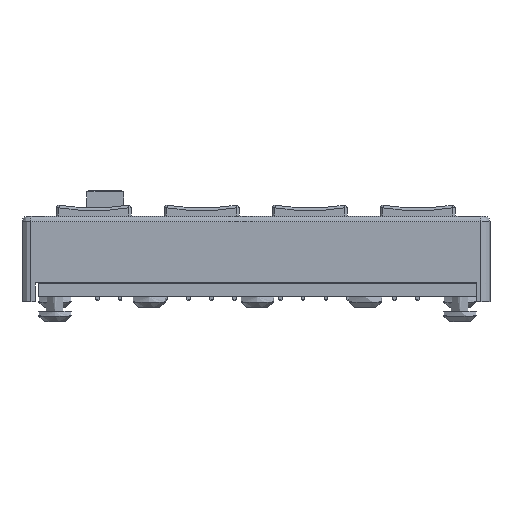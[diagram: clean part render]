
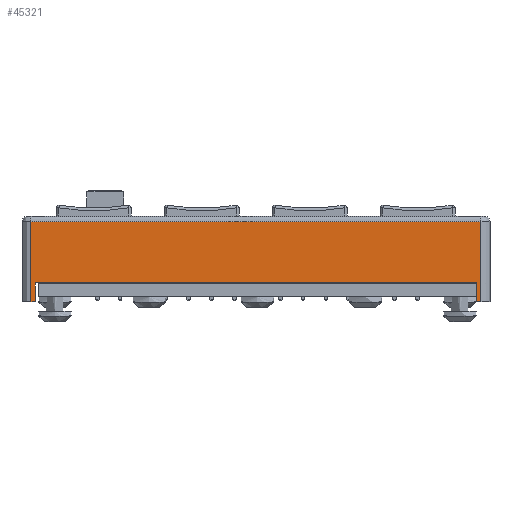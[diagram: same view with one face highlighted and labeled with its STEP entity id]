
A CAD part, front view. The second image highlights one B-rep face of the part: STEP entity #45321.
In plain terms, the highlighted planar face has unit normal (0, -1, 0).
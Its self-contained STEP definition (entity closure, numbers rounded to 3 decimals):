
#4483=FACE_OUTER_BOUND('',#6840,.T.);
#6840=EDGE_LOOP('',(#37634,#37635,#37636,#37637,#37638,#37639,#37640,#37641));
#11474=LINE('',#71507,#17019);
#11479=LINE('',#71517,#17024);
#11480=LINE('',#71521,#17025);
#11481=LINE('',#71523,#17026);
#11482=LINE('',#71525,#17027);
#11483=LINE('',#71527,#17028);
#11484=LINE('',#71529,#17029);
#11485=LINE('',#71530,#17030);
#17019=VECTOR('',#57782,10.);
#17024=VECTOR('',#57791,10.);
#17025=VECTOR('',#57796,10.);
#17026=VECTOR('',#57797,10.);
#17027=VECTOR('',#57798,10.);
#17028=VECTOR('',#57799,10.);
#17029=VECTOR('',#57800,10.);
#17030=VECTOR('',#57801,10.);
#22426=VERTEX_POINT('',#71438);
#22441=VERTEX_POINT('',#71502);
#22444=VERTEX_POINT('',#71516);
#22445=VERTEX_POINT('',#71520);
#22446=VERTEX_POINT('',#71522);
#22447=VERTEX_POINT('',#71524);
#22448=VERTEX_POINT('',#71526);
#22449=VERTEX_POINT('',#71528);
#28393=EDGE_CURVE('',#22426,#22441,#11474,.T.);
#28398=EDGE_CURVE('',#22441,#22444,#11479,.T.);
#28400=EDGE_CURVE('',#22445,#22426,#11480,.T.);
#28401=EDGE_CURVE('',#22445,#22446,#11481,.T.);
#28402=EDGE_CURVE('',#22446,#22447,#11482,.T.);
#28403=EDGE_CURVE('',#22447,#22448,#11483,.T.);
#28404=EDGE_CURVE('',#22448,#22449,#11484,.T.);
#28405=EDGE_CURVE('',#22449,#22444,#11485,.T.);
#37634=ORIENTED_EDGE('',*,*,#28393,.F.);
#37635=ORIENTED_EDGE('',*,*,#28400,.F.);
#37636=ORIENTED_EDGE('',*,*,#28401,.T.);
#37637=ORIENTED_EDGE('',*,*,#28402,.T.);
#37638=ORIENTED_EDGE('',*,*,#28403,.T.);
#37639=ORIENTED_EDGE('',*,*,#28404,.T.);
#37640=ORIENTED_EDGE('',*,*,#28405,.T.);
#37641=ORIENTED_EDGE('',*,*,#28398,.F.);
#43395=PLANE('',#48729);
#45321=ADVANCED_FACE('',(#4483),#43395,.T.);
#48729=AXIS2_PLACEMENT_3D('',#71519,#57794,#57795);
#57782=DIRECTION('',(-1.,0.,0.));
#57791=DIRECTION('',(0.,0.,1.));
#57794=DIRECTION('center_axis',(0.,-1.,0.));
#57795=DIRECTION('ref_axis',(0.,0.,-1.));
#57796=DIRECTION('',(0.,0.,-1.));
#57797=DIRECTION('',(-1.,0.,0.));
#57798=DIRECTION('',(0.,0.,-1.));
#57799=DIRECTION('',(-1.,0.,0.));
#57800=DIRECTION('',(0.,0.,1.));
#57801=DIRECTION('',(-1.,0.,0.));
#71438=CARTESIAN_POINT('',(14.07,-23.231,0.6));
#71502=CARTESIAN_POINT('',(-35.93,-23.231,0.6));
#71507=CARTESIAN_POINT('',(-10.93,-23.231,0.6));
#71516=CARTESIAN_POINT('',(-35.93,-23.231,9.5));
#71517=CARTESIAN_POINT('',(-35.93,-23.231,2.375));
#71519=CARTESIAN_POINT('Origin',(-10.93,-23.231,4.75));
#71520=CARTESIAN_POINT('',(14.07,-23.231,9.5));
#71521=CARTESIAN_POINT('',(14.07,-23.231,2.375));
#71522=CARTESIAN_POINT('',(13.57,-23.231,9.5));
#71523=CARTESIAN_POINT('',(15.07,-23.231,9.5));
#71524=CARTESIAN_POINT('',(13.57,-23.231,7.4));
#71525=CARTESIAN_POINT('',(13.57,-23.231,9.5));
#71526=CARTESIAN_POINT('',(-35.43,-23.231,7.4));
#71527=CARTESIAN_POINT('',(13.57,-23.231,7.4));
#71528=CARTESIAN_POINT('',(-35.43,-23.231,9.5));
#71529=CARTESIAN_POINT('',(-35.43,-23.231,7.4));
#71530=CARTESIAN_POINT('',(-35.43,-23.231,9.5));
